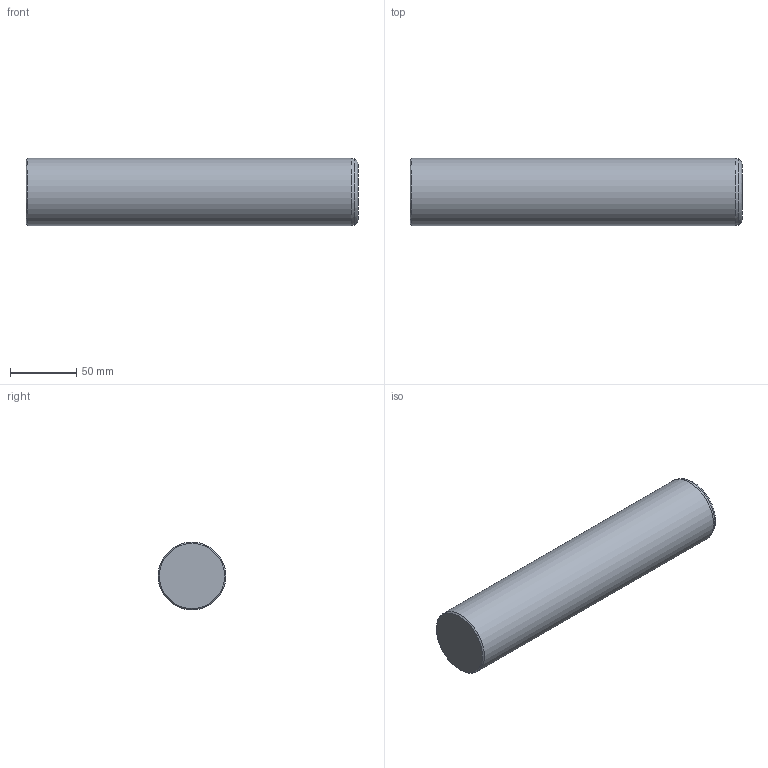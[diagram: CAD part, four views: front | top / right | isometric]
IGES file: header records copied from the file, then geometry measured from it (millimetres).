
Global section: file name: C451250.ipt; native system: Autodesk Inventor 2021; preprocessor: unknown; author: SM; date: 20211220.143437; units: millimetre
Bounding box: 250 x 51 x 51 mm (x, y, z)
Volume: 509790 mm3; surface area: 43693.1 mm2
Topology: 1 solids, 1 shells, 6 faces, 11 edges, 7 vertices
Faces by surface type: cone 2, plane 2, revolution 1, cylinder 1
Full cylindrical faces by diameter (mm): 51 x1
